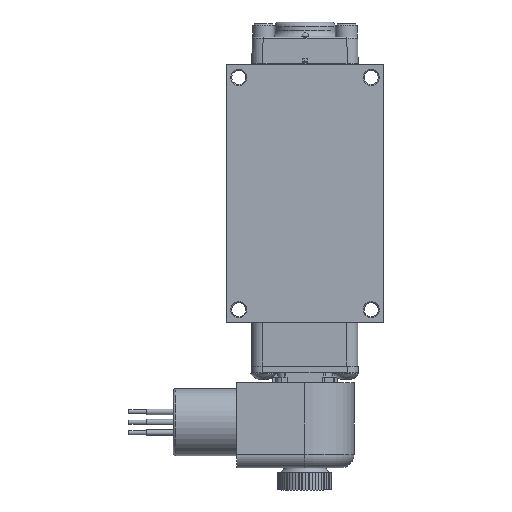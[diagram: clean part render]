
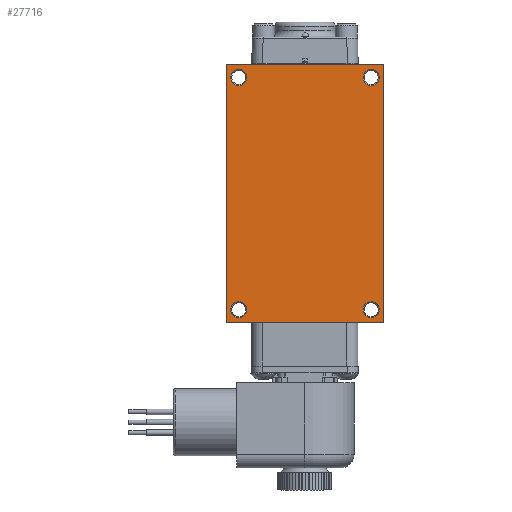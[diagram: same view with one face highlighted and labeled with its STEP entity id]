
A CAD part, front view. The second image highlights one B-rep face of the part: STEP entity #27716.
In plain terms, the highlighted planar face has unit normal (0, -1, 0).
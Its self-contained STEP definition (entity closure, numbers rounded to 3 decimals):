
#941=LINE('',#41531,#2885);
#963=LINE('',#41659,#2907);
#1176=LINE('',#42777,#3120);
#1419=LINE('',#44201,#3363);
#2885=VECTOR('',#33222,5.715);
#2907=VECTOR('',#33332,5.715);
#3120=VECTOR('',#33703,9.421);
#3363=VECTOR('',#34096,9.421);
#5458=FACE_BOUND('',#8123,.T.);
#5459=FACE_BOUND('',#8124,.T.);
#5460=FACE_BOUND('',#8125,.T.);
#5461=FACE_BOUND('',#8126,.T.);
#6351=FACE_OUTER_BOUND('',#8122,.T.);
#8122=EDGE_LOOP('',(#20127,#20128,#20129,#20130));
#8123=EDGE_LOOP('',(#20131));
#8124=EDGE_LOOP('',(#20132));
#8125=EDGE_LOOP('',(#20133));
#8126=EDGE_LOOP('',(#20134));
#9868=CIRCLE('',#29671,0.296);
#9869=CIRCLE('',#29673,0.296);
#9870=CIRCLE('',#29674,0.296);
#9871=CIRCLE('',#29675,0.296);
#11353=VERTEX_POINT('',#41528);
#11354=VERTEX_POINT('',#41530);
#11415=VERTEX_POINT('',#41656);
#11416=VERTEX_POINT('',#41658);
#11898=VERTEX_POINT('',#44776);
#11899=VERTEX_POINT('',#44779);
#11900=VERTEX_POINT('',#44781);
#11901=VERTEX_POINT('',#44783);
#14148=EDGE_CURVE('',#11353,#11354,#941,.T.);
#14210=EDGE_CURVE('',#11415,#11416,#963,.T.);
#14488=EDGE_CURVE('',#11416,#11353,#1176,.T.);
#14825=EDGE_CURVE('',#11354,#11415,#1419,.T.);
#14922=EDGE_CURVE('',#11898,#11898,#9868,.T.);
#14923=EDGE_CURVE('',#11899,#11899,#9869,.T.);
#14924=EDGE_CURVE('',#11900,#11900,#9870,.T.);
#14925=EDGE_CURVE('',#11901,#11901,#9871,.T.);
#20127=ORIENTED_EDGE('',*,*,#14825,.F.);
#20128=ORIENTED_EDGE('',*,*,#14148,.F.);
#20129=ORIENTED_EDGE('',*,*,#14488,.F.);
#20130=ORIENTED_EDGE('',*,*,#14210,.F.);
#20131=ORIENTED_EDGE('',*,*,#14923,.F.);
#20132=ORIENTED_EDGE('',*,*,#14924,.F.);
#20133=ORIENTED_EDGE('',*,*,#14925,.F.);
#20134=ORIENTED_EDGE('',*,*,#14922,.F.);
#25067=PLANE('',#29672);
#27716=ADVANCED_FACE('',(#6351,#5458,#5459,#5460,#5461),#25067,.F.);
#29671=AXIS2_PLACEMENT_3D('',#44777,#34301,#34302);
#29672=AXIS2_PLACEMENT_3D('',#44778,#34303,#34304);
#29673=AXIS2_PLACEMENT_3D('',#44780,#34305,#34306);
#29674=AXIS2_PLACEMENT_3D('',#44782,#34307,#34308);
#29675=AXIS2_PLACEMENT_3D('',#44784,#34309,#34310);
#33222=DIRECTION('',(1.,0.,0.));
#33332=DIRECTION('',(-1.,0.,0.));
#33703=DIRECTION('',(0.,0.,1.));
#34096=DIRECTION('',(0.,0.,-1.));
#34301=DIRECTION('center_axis',(0.,-1.,0.));
#34302=DIRECTION('ref_axis',(1.,0.,0.));
#34303=DIRECTION('center_axis',(0.,1.,0.));
#34304=DIRECTION('ref_axis',(0.,0.,1.));
#34305=DIRECTION('center_axis',(0.,-1.,0.));
#34306=DIRECTION('ref_axis',(1.,0.,0.));
#34307=DIRECTION('center_axis',(0.,-1.,0.));
#34308=DIRECTION('ref_axis',(1.,0.,0.));
#34309=DIRECTION('center_axis',(0.,-1.,0.));
#34310=DIRECTION('ref_axis',(1.,0.,0.));
#41528=CARTESIAN_POINT('',(-2.858,-1.636,4.71));
#41530=CARTESIAN_POINT('',(2.858,-1.636,4.71));
#41531=CARTESIAN_POINT('',(2.858,-1.636,4.71));
#41656=CARTESIAN_POINT('',(2.858,-1.636,-4.71));
#41658=CARTESIAN_POINT('',(-2.858,-1.636,-4.71));
#41659=CARTESIAN_POINT('',(-2.858,-1.636,-4.71));
#42777=CARTESIAN_POINT('',(-2.858,-1.636,4.71));
#44201=CARTESIAN_POINT('',(2.858,-1.636,-4.71));
#44776=CARTESIAN_POINT('',(2.125,-1.636,4.247));
#44777=CARTESIAN_POINT('Origin',(2.421,-1.636,4.247));
#44778=CARTESIAN_POINT('Origin',(0.,-1.636,0.));
#44779=CARTESIAN_POINT('',(-2.717,-1.636,4.247));
#44780=CARTESIAN_POINT('Origin',(-2.421,-1.636,4.247));
#44781=CARTESIAN_POINT('',(2.125,-1.636,-4.247));
#44782=CARTESIAN_POINT('Origin',(2.421,-1.636,-4.247));
#44783=CARTESIAN_POINT('',(-2.717,-1.636,-4.247));
#44784=CARTESIAN_POINT('Origin',(-2.421,-1.636,-4.247));
